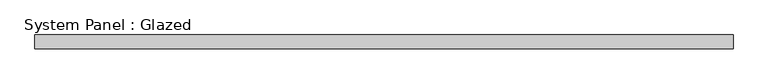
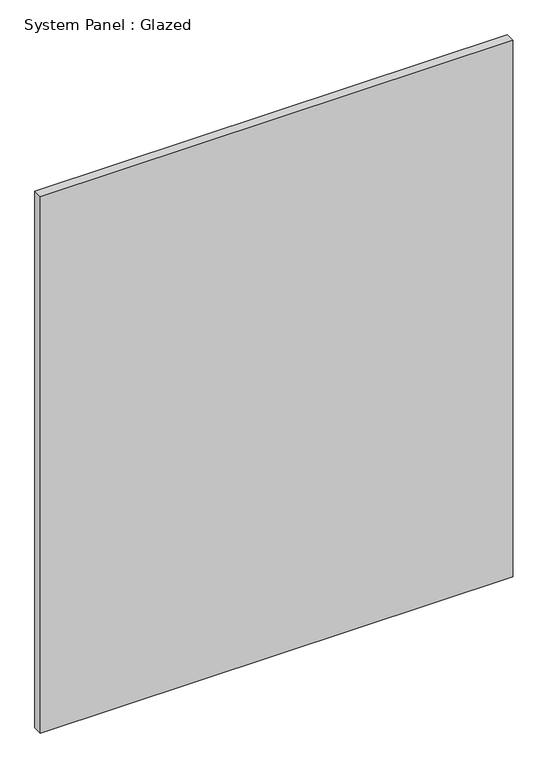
"""IFC4 building model written with IfcOpenShell, lengths in millimetres: plate geometry, System Panel : Glazed."""

from ifc_helpers import new_model, si_unit, origin, origin_with_axes, place, context, project, spatial, polyline, outline, extrude, source, transform, mapped, element, save


def system_panel_glazed_ae204111(model_context):
    return source(origin(), model_context, "Body", "SweptSolid", [
        extrude(outline(polyline([(635.0000002, -49.5), (-635.0000002, -49.5), (-635.0000002, -24.5), (635.0000002, -24.5), (635.0000002, -49.5)])), origin_with_axes(), (0.0, 0.0, 1.0), 1524.0),
    ])


if __name__ == "__main__":
    model = new_model("IFC4")
    model_context = context("Model", 3, world=origin())
    ifc_project = project(units=[si_unit("LENGTHUNIT", "METRE", prefix="MILLI")], contexts=[model_context])
    site = spatial("IfcSite", under=ifc_project)
    building = spatial("IfcBuilding", under=site)
    placement = place(None, origin())
    system_panel_glazed_shape = system_panel_glazed_ae204111(model_context)
    element("IfcPlate", 1, ObjectType="System Panel : Glazed", at=placement, inside=building, context=model_context, shape_type="MappedRepresentation", body=[
        mapped(system_panel_glazed_shape, transform((0.0, 0.0, 0.0), x_axis=(1.0, 0.0, 0.0), y_axis=(0.0, 1.0, 0.0), z_axis=(0.0, 0.0, 1.0))),
    ])
    save(model, "model.ifc")
